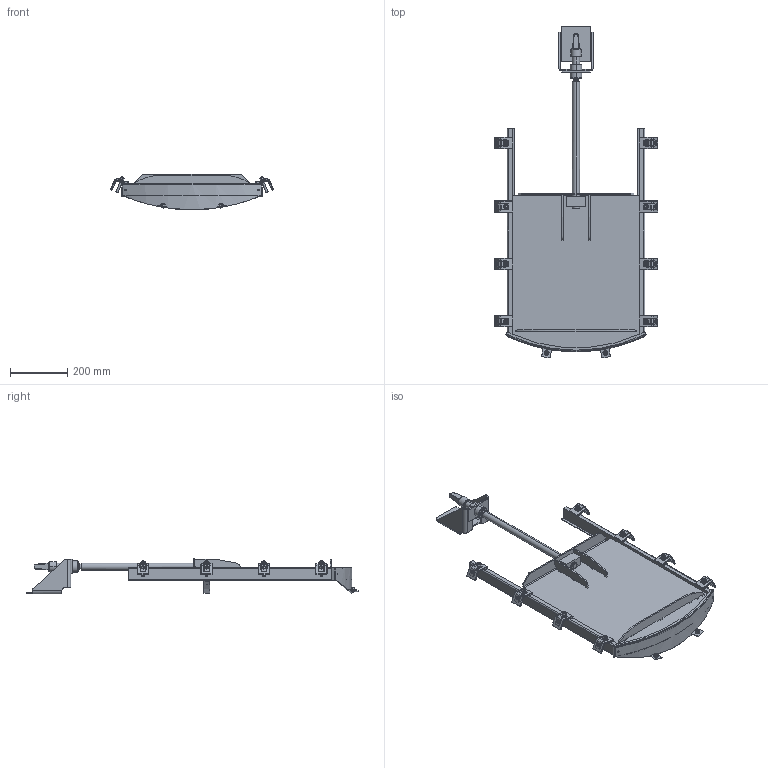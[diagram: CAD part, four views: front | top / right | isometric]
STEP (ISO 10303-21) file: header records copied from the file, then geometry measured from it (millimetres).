
FILE_DESCRIPTION (( 'STEP AP214' ), '1' );
FILE_NAME ('LW 400 Schacht1200 geschr..STEP', '2022-05-20T09:17:02', ( '' ), ( '' ), 'SwSTEP 2.0', 'SolidWorks 2021', '' );
FILE_SCHEMA (( 'AUTOMOTIVE_DESIGN' ));
Length unit declared in the file: millimetre
Products named in the file (1): LW 400 Schacht1200 geschr.
Bounding box: 569.2 x 1158.15 x 123.95 mm (x, y, z)
Volume: 3954286.3 mm3; surface area: 1204996.5 mm2
Topology: 1 solids, 11 shells, 1446 faces, 3435 edges, 1948 vertices
Faces by surface type: cylinder 566, plane 429, cone 146, sphere 112, torus 104, bspline 89
Entity records: 61170 total; most frequent: CARTESIAN_POINT 13179, DIRECTION 6876, ORIENTED_EDGE 6638, EDGE_CURVE 3319, AXIS2_PLACEMENT_3D 2723, VERTEX_POINT 1932, EDGE_LOOP 1557, UNCERTAINTY_MEASURE_WITH_UNIT 1449
